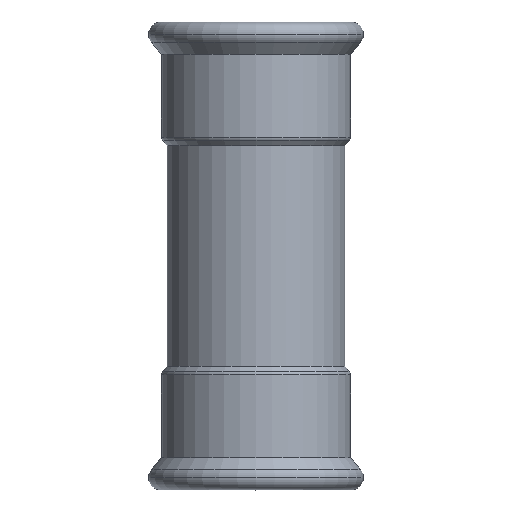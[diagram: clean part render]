
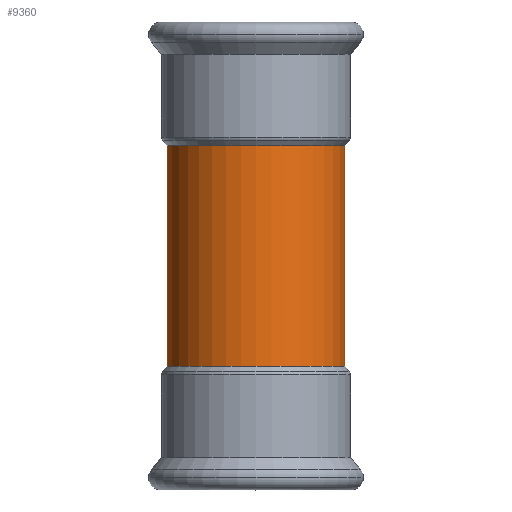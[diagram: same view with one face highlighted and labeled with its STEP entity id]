
A CAD part, top view. The second image highlights one B-rep face of the part: STEP entity #9360.
In plain terms, the highlighted cylindrical face has radius 27 mm (diameter 54 mm), a partial arc.
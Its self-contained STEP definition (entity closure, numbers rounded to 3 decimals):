
#770=CARTESIAN_POINT('',(-50.154,157.631,
-33.5));
#780=DIRECTION('',(0.,0.,-1.));
#790=DIRECTION('',(1.,0.,0.));
#800=AXIS2_PLACEMENT_3D('',#770,#780,#790);
#810=CYLINDRICAL_SURFACE('',#800,27.);
#9000=CARTESIAN_POINT('',(-23.154,157.631,
-33.5));
#9010=DIRECTION('',(0.,0.,-1.));
#9020=VECTOR('',#9010,1.);
#9030=LINE('',#9000,#9020);
#9040=CARTESIAN_POINT('',(-23.154,157.631,
33.5));
#9050=VERTEX_POINT('',#9040);
#9060=CARTESIAN_POINT('',(-23.154,157.631,
-33.5));
#9070=VERTEX_POINT('',#9060);
#9080=EDGE_CURVE('',#9050,#9070,#9030,.T.);
#9090=ORIENTED_EDGE('',*,*,#9080,.F.);
#9100=CARTESIAN_POINT('',(-50.154,157.631,
-33.5));
#9110=DIRECTION('',(0.,0.,-1.));
#9120=DIRECTION('',(1.,0.,0.));
#9130=AXIS2_PLACEMENT_3D('',#9100,#9110,#9120);
#9140=CIRCLE('',#9130,27.);
#9150=CARTESIAN_POINT('',(-77.154,157.631,
-33.5));
#9160=VERTEX_POINT('',#9150);
#9170=EDGE_CURVE('',#9070,#9160,#9140,.T.);
#9180=ORIENTED_EDGE('',*,*,#9170,.F.);
#9190=CARTESIAN_POINT('',(-77.154,157.631,
-33.5));
#9200=DIRECTION('',(0.,0.,-1.));
#9210=VECTOR('',#9200,1.);
#9220=LINE('',#9190,#9210);
#9230=CARTESIAN_POINT('',(-77.154,157.631,
33.5));
#9240=VERTEX_POINT('',#9230);
#9250=EDGE_CURVE('',#9240,#9160,#9220,.T.);
#9260=ORIENTED_EDGE('',*,*,#9250,.T.);
#9270=CARTESIAN_POINT('',(-50.154,157.631,
33.5));
#9280=DIRECTION('',(0.,0.,1.));
#9290=DIRECTION('',(1.,0.,0.));
#9300=AXIS2_PLACEMENT_3D('',#9270,#9280,#9290);
#9310=CIRCLE('',#9300,27.);
#9320=EDGE_CURVE('',#9240,#9050,#9310,.T.);
#9330=ORIENTED_EDGE('',*,*,#9320,.F.);
#9340=EDGE_LOOP('',(#9330,#9260,#9180,#9090));
#9350=FACE_OUTER_BOUND('',#9340,.T.);
#9360=ADVANCED_FACE('',(#9350),#810,.T.);
